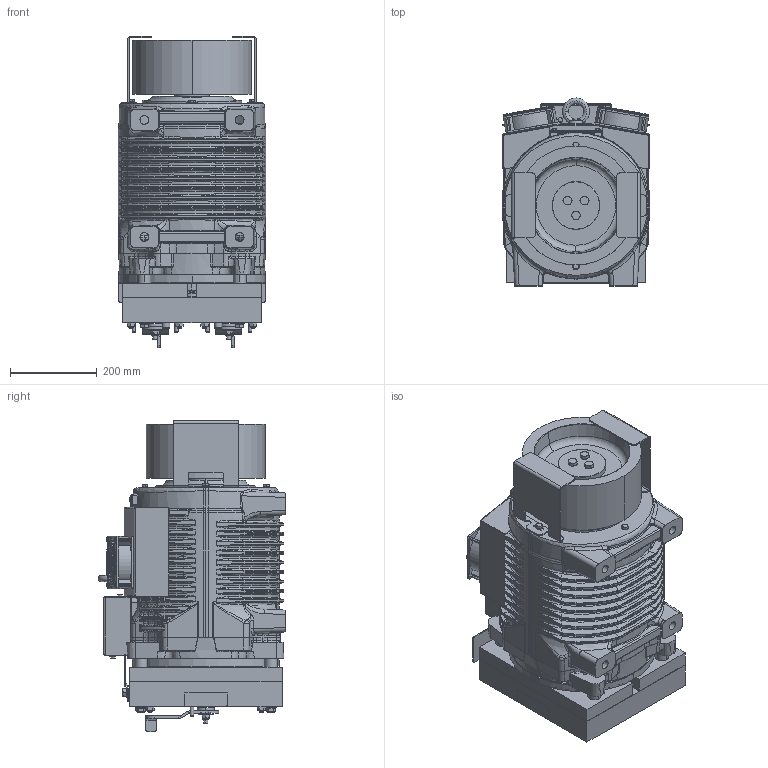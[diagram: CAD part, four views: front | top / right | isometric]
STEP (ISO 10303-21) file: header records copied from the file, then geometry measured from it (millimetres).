
FILE_DESCRIPTION((''),'2;1');
FILE_NAME('00363362_ASM','2020-05-28T',('furlanis'),('Sicor spa'),'CREO PARAMETRIC BY PTC INC, 2017170','CREO PARAMETRIC BY PTC INC, 2017170','');
FILE_SCHEMA(('CONFIG_CONTROL_DESIGN'));
Products named in the file (4): SG48; 00212672; 00212648; 00363362_ASM
Assembly tree (4 placements, depth 2):
  00363362_ASM
    SG48
    00212672  x2
    00212648
Bounding box: 340.21 x 433.5 x 717.34 mm (x, y, z)
Volume: 5312666.3 mm3; surface area: 3230820.3 mm2
Topology: 3 solids, 379 shells, 4397 faces, 14236 edges, 9893 vertices
Faces by surface type: plane 1518, cylinder 1161, bspline 847, torus 451, cone 396, sphere 20, revolution 4
Entity records: 233241 total; most frequent: CARTESIAN_POINT 122626, ORIENTED_EDGE 22139, DIRECTION 20270, EDGE_CURVE 14042, VERTEX_POINT 9789, AXIS2_PLACEMENT_3D 6970, VECTOR 6326, LINE 6326
